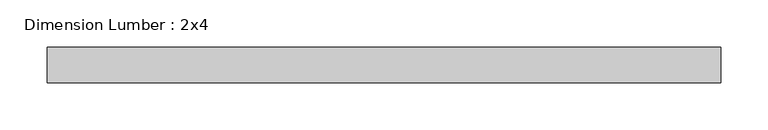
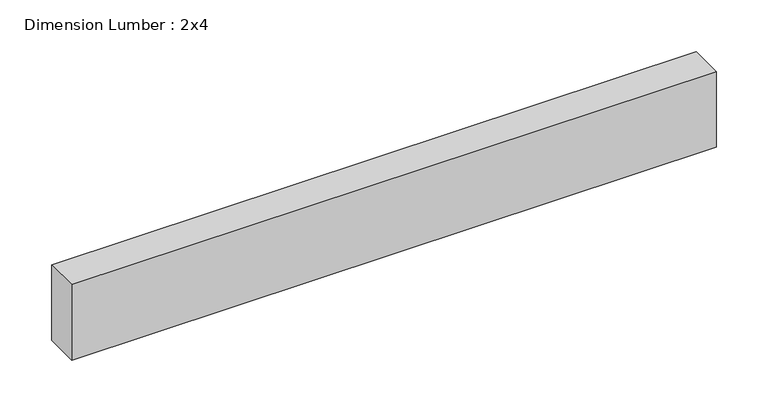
"""IFC4 building model written with IfcOpenShell, lengths in millimetres: beam geometry, Dimension Lumber : 2x4."""

from ifc_helpers import new_model, si_unit, frame, origin, place, context, project, spatial, polyline, outline, extrude, source, transform, mapped, element, save


def dimension_lumber_2x4_c3728f5c(model_context):
    return source(origin(), model_context, "Body", "SweptSolid", [
        extrude(outline(polyline([(358.3779134, 19.05), (358.3779134, -19.05), (-358.3779134, -19.05), (-358.3779134, 19.05), (358.3779134, 19.05)])), frame((0.0, 0.0, -44.45), z_axis=(0.0, 0.0, 1.0), x_axis=(1.0, 0.0, 0.0)), (0.0, 0.0, 1.0), 88.9),
    ])


if __name__ == "__main__":
    model = new_model("IFC4")
    model_context = context("Model", 3, world=origin())
    ifc_project = project(units=[si_unit("LENGTHUNIT", "METRE", prefix="MILLI")], contexts=[model_context])
    site = spatial("IfcSite", under=ifc_project)
    building = spatial("IfcBuilding", under=site)
    placement = place(None, origin())
    dimension_lumber_2x4_shape = dimension_lumber_2x4_c3728f5c(model_context)
    element("IfcBeam", 1, ObjectType="Dimension Lumber : 2x4", at=placement, inside=building, context=model_context, shape_type="MappedRepresentation", body=[
        mapped(dimension_lumber_2x4_shape, transform((0.0, 0.0, 0.0), x_axis=(1.0, 0.0, 0.0), y_axis=(0.0, 1.0, 0.0), z_axis=(0.0, 0.0, 1.0))),
    ])
    save(model, "model.ifc")
